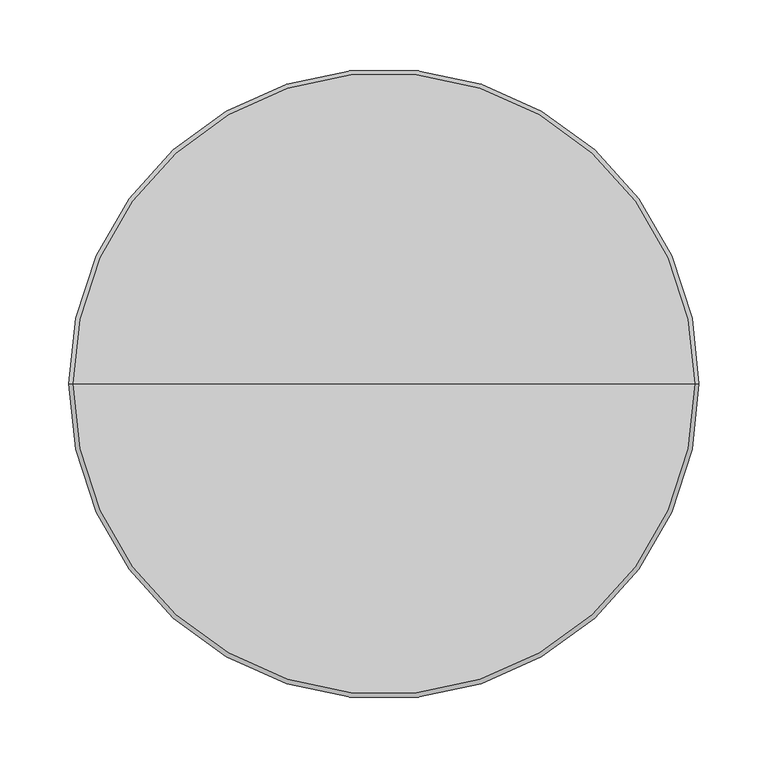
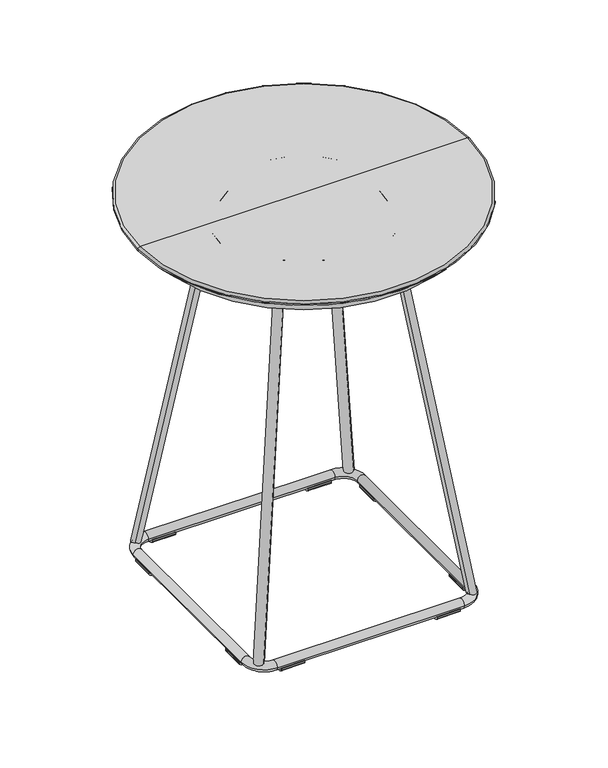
"""IFC4 building model written with IfcOpenShell, lengths in millimetres: furniture geometry, Stance_HC-Tully-Round_Table : TUTF18R22-T."""

from ifc_helpers import new_model, si_unit, point, frame, frame_2d, origin, place, context, project, spatial, polyline, circle_curve, ellipse_curve, trimmed, segment, composite_curve, outline, extrude, source, transform, mapped, element, save
from ifc_brep_helpers import plane_surface, cylinder_surface, revolved_surface, extruded_surface, advanced_brep


def furniture_25530727(model_context):
    return source(origin(), model_context, "Body", "SolidModel", [
        advanced_brep(
        [(-208.2100174, 0.0, 533.4), (208.2100174, 0.0, 533.4), (0.0, 0.0, 533.4), (-228.6, 0.0, 553.7899826), (228.6, 0.0, 553.7899826), (-228.6, 0.0, 555.625), (228.6, 0.0, 555.625), (0.0, 0.0, 558.8), (225.425, 0.0, 558.8), (-225.425, 0.0, 558.8)],
        [
            (0, 1, circle_curve(frame((0.0, 0.0, 533.4), z_axis=(0.0, 0.0, -1.0), x_axis=(1.0, 0.0, 0.0)), 208.2100174)),
            (1, 2),
            (2, 0),
            (1, 0, circle_curve(frame((0.0, 0.0, 533.4), z_axis=(0.0, 0.0, -1.0), x_axis=(1.0, 0.0, 0.0)), 208.2100174)),
            (3, 4, circle_curve(frame((0.0, 0.0, 553.7899826), z_axis=(0.0, 0.0, -1.0), x_axis=(1.0, 0.0, 0.0)), 228.6)),
            (4, 1),
            (0, 3),
            (4, 3, circle_curve(frame((0.0, 0.0, 553.7899826), z_axis=(0.0, 0.0, -1.0), x_axis=(1.0, 0.0, 0.0)), 228.6)),
            (5, 6, circle_curve(frame((0.0, 0.0, 555.625), z_axis=(0.0, 0.0, -1.0), x_axis=(1.0, 0.0, 0.0)), 228.6)),
            (6, 4),
            (3, 5),
            (6, 5, circle_curve(frame((0.0, 0.0, 555.625), z_axis=(0.0, 0.0, -1.0), x_axis=(1.0, 0.0, 0.0)), 228.6)),
            (7, 8),
            (8, 9, circle_curve(frame((0.0, 0.0, 558.8), z_axis=(0.0, 0.0, 1.0), x_axis=(1.0, 0.0, 0.0)), 225.425)),
            (9, 7),
            (9, 8, circle_curve(frame((0.0, 0.0, 558.8), z_axis=(0.0, 0.0, 1.0), x_axis=(1.0, 0.0, 0.0)), 225.425)),
            (8, 6, circle_curve(frame((225.425, 0.0, 555.625), z_axis=(0.0, 1.0, 0.0), x_axis=(1.0, 0.0, 0.0)), 3.175)),
            (5, 9, circle_curve(frame((-225.425, 0.0, 555.625), z_axis=(0.0, 1.0, 0.0), x_axis=(-1.0, 0.0, 0.0)), 3.175)),
        ],
        [
            plane_surface(frame((0.0, 0.0, 533.4), z_axis=(0.0, 0.0, -1.0), x_axis=(1.0, 0.0, 0.0))),
            revolved_surface(polyline([(208.2100174, 0.0, 533.4), (228.6, 0.0, 553.7899826)]), (0.0, 0.0, 613.381295), (0.0, 0.0, 1.0)),
            cylinder_surface(frame((0.0, 0.0, 613.381295), z_axis=(0.0, 0.0, 1.0), x_axis=(1.0, 0.0, 0.0)), 228.6),
            plane_surface(frame((0.0, 0.0, 558.8), z_axis=(0.0, 0.0, 1.0), x_axis=(1.0, 0.0, 0.0))),
            revolved_surface(trimmed(ellipse_curve(frame((225.425, 0.0, 555.625), z_axis=(0.0, -1.0, 0.0), x_axis=(1.0, 0.0, 0.0)), 3.175, 3.175), [point((228.6, 0.0, 555.625))], [point((225.425, 0.0, 558.8))], True, "CARTESIAN"), (0.0, 0.0, 613.381295), (0.0, 0.0, 1.0)),
        ],
        [
            (0, [[1, 2, 3]]),
            (0, [[4, -3, -2]]),
            (1, [[5, 6, -1, 7]]),
            (1, [[8, -7, -4, -6]]),
            (2, [[9, 10, -5, 11]]),
            (2, [[12, -11, -8, -10]]),
            (3, [[13, 14, 15]]),
            (3, [[-15, 16, -13]]),
            (4, [[-14, 17, -9, 18]]),
            (4, [[-16, -18, -12, -17]]),
        ],
    ),
        extrude(outline(composite_curve([segment(trimmed(circle_curve(frame_2d((-148.4350817, 5.3337234)), 0.3897203), [point((-148.7664819, 5.5387985))], [point((-148.0454207, 5.3269218))], False, "CARTESIAN"), True, "CONTINUOUS"), segment(polyline([(-148.0454207, 5.3269218), (-148.0841502, 3.1081125)]), True, "CONTINUOUS"), segment(trimmed(circle_curve(frame_2d((-149.6824444, 3.1360109)), 1.5985377), [point((-148.0841502, 3.1081125))], [point((-148.7010134, 1.8742201))], False, "CARTESIAN"), True, "CONTINUOUS"), segment(trimmed(circle_curve(frame_2d((-154.1650784, 8.8991729)), 8.8997735), [point((-148.7010134, 1.8742201))], [point((-159.6514035, 1.891591))], False, "CARTESIAN"), True, "CONTINUOUS"), segment(trimmed(circle_curve(frame_2d((-158.6952511, 3.1128668)), 1.5510454), [point((-159.6514035, 1.891591))], [point((-160.2460603, 3.0857973))], False, "CARTESIAN"), True, "CONTINUOUS"), segment(polyline([(-160.2460603, 3.0857973), (-160.2853602, 5.3372874)]), True, "CONTINUOUS"), segment(trimmed(circle_curve(frame_2d((-159.9029827, 5.3439618)), 0.3824358), [point((-160.2853602, 5.3372874))], [point((-159.5775522, 5.5448401))], False, "CARTESIAN"), True, "CONTINUOUS"), segment(trimmed(circle_curve(frame_2d((-154.1701501, 8.882664)), 6.3546098), [point((-159.5775522, 5.5448401))], [point((-148.7664819, 5.5387985))], True, "CARTESIAN"), True, "CONTINUOUS")], self_intersect=False)), frame((-123.2212496, 0.0, 0.0), z_axis=(1.0, 0.0, 0.0), x_axis=(0.0, 1.0, 0.0)), (0.0, 0.0, 1.0), 32.2202589),
        extrude(outline(composite_curve([segment(trimmed(circle_curve(frame_2d((-148.4350817, 5.3337234)), 0.3897203), [point((-148.7664819, 5.5387985))], [point((-148.0454207, 5.3269218))], False, "CARTESIAN"), True, "CONTINUOUS"), segment(polyline([(-148.0454207, 5.3269218), (-148.0841502, 3.1081125)]), True, "CONTINUOUS"), segment(trimmed(circle_curve(frame_2d((-149.6824444, 3.1360109)), 1.5985377), [point((-148.0841502, 3.1081125))], [point((-148.7010134, 1.8742201))], False, "CARTESIAN"), True, "CONTINUOUS"), segment(trimmed(circle_curve(frame_2d((-154.1650784, 8.8991729)), 8.8997735), [point((-148.7010134, 1.8742201))], [point((-159.6514035, 1.891591))], False, "CARTESIAN"), True, "CONTINUOUS"), segment(trimmed(circle_curve(frame_2d((-158.6952511, 3.1128668)), 1.5510454), [point((-159.6514035, 1.891591))], [point((-160.2460603, 3.0857973))], False, "CARTESIAN"), True, "CONTINUOUS"), segment(polyline([(-160.2460603, 3.0857973), (-160.2853602, 5.3372874)]), True, "CONTINUOUS"), segment(trimmed(circle_curve(frame_2d((-159.9029827, 5.3439618)), 0.3824358), [point((-160.2853602, 5.3372874))], [point((-159.5775522, 5.5448401))], False, "CARTESIAN"), True, "CONTINUOUS"), segment(trimmed(circle_curve(frame_2d((-154.1701501, 8.882664)), 6.3546098), [point((-159.5775522, 5.5448401))], [point((-148.7664819, 5.5387985))], True, "CARTESIAN"), True, "CONTINUOUS")], self_intersect=False)), frame((91.0531504, 0.0, 0.0), z_axis=(1.0, 0.0, 0.0), x_axis=(0.0, 1.0, 0.0)), (0.0, 0.0, 1.0), 32.2202589),
        extrude(outline(composite_curve([segment(trimmed(circle_curve(frame_2d((154.1701501, 8.882664)), 6.3546098), [point((148.7664819, 5.5387985))], [point((159.5775522, 5.5448401))], True, "CARTESIAN"), True, "CONTINUOUS"), segment(trimmed(circle_curve(frame_2d((159.9029827, 5.3439618)), 0.3824358), [point((159.5775522, 5.5448401))], [point((160.2853602, 5.3372874))], False, "CARTESIAN"), True, "CONTINUOUS"), segment(polyline([(160.2853602, 5.3372874), (160.2460603, 3.0857973)]), True, "CONTINUOUS"), segment(trimmed(circle_curve(frame_2d((158.6952511, 3.1128668)), 1.5510454), [point((160.2460603, 3.0857973))], [point((159.6514035, 1.891591))], False, "CARTESIAN"), True, "CONTINUOUS"), segment(trimmed(circle_curve(frame_2d((154.1650784, 8.8991729)), 8.8997735), [point((159.6514035, 1.891591))], [point((148.7010134, 1.8742201))], False, "CARTESIAN"), True, "CONTINUOUS"), segment(trimmed(circle_curve(frame_2d((149.6824444, 3.1360109)), 1.5985377), [point((148.7010134, 1.8742201))], [point((148.0841502, 3.1081125))], False, "CARTESIAN"), True, "CONTINUOUS"), segment(polyline([(148.0841502, 3.1081125), (148.0454207, 5.3269218)]), True, "CONTINUOUS"), segment(trimmed(circle_curve(frame_2d((148.4350817, 5.3337234)), 0.3897203), [point((148.0454207, 5.3269218))], [point((148.7664819, 5.5387985))], False, "CARTESIAN"), True, "CONTINUOUS")], self_intersect=False)), frame((-123.2212496, 0.0, 0.0), z_axis=(1.0, 0.0, 0.0), x_axis=(0.0, 1.0, 0.0)), (0.0, 0.0, 1.0), 32.2202589),
        extrude(outline(composite_curve([segment(trimmed(circle_curve(frame_2d((154.1701501, 8.882664)), 6.3546098), [point((148.7664819, 5.5387985))], [point((159.5775522, 5.5448401))], True, "CARTESIAN"), True, "CONTINUOUS"), segment(trimmed(circle_curve(frame_2d((159.9029827, 5.3439618)), 0.3824358), [point((159.5775522, 5.5448401))], [point((160.2853602, 5.3372874))], False, "CARTESIAN"), True, "CONTINUOUS"), segment(polyline([(160.2853602, 5.3372874), (160.2460603, 3.0857973)]), True, "CONTINUOUS"), segment(trimmed(circle_curve(frame_2d((158.6952511, 3.1128668)), 1.5510454), [point((160.2460603, 3.0857973))], [point((159.6514035, 1.891591))], False, "CARTESIAN"), True, "CONTINUOUS"), segment(trimmed(circle_curve(frame_2d((154.1650784, 8.8991729)), 8.8997735), [point((159.6514035, 1.891591))], [point((148.7010134, 1.8742201))], False, "CARTESIAN"), True, "CONTINUOUS"), segment(trimmed(circle_curve(frame_2d((149.6824444, 3.1360109)), 1.5985377), [point((148.7010134, 1.8742201))], [point((148.0841502, 3.1081125))], False, "CARTESIAN"), True, "CONTINUOUS"), segment(polyline([(148.0841502, 3.1081125), (148.0454207, 5.3269218)]), True, "CONTINUOUS"), segment(trimmed(circle_curve(frame_2d((148.4350817, 5.3337234)), 0.3897203), [point((148.0454207, 5.3269218))], [point((148.7664819, 5.5387985))], False, "CARTESIAN"), True, "CONTINUOUS")], self_intersect=False)), frame((91.0531504, 0.0, 0.0), z_axis=(1.0, 0.0, 0.0), x_axis=(0.0, 1.0, 0.0)), (0.0, 0.0, 1.0), 32.2202589),
        advanced_brep(
        [(81.5399756, 72.5694431, 523.8961578), (72.5597195, 81.5496992, 523.8961578), (151.0077383, 142.0372058, 13.6617424), (142.0274822, 151.0174619, 13.6617424)],
        [
            (0, 1, ellipse_curve(frame((77.0498475, 77.0595711, 523.8961578), z_axis=(0.0, 0.0, 1.0000000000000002), x_axis=(-0.7071067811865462, 0.7071067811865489, 0.0)), 6.35, 6.1981026)),
            (1, 0, ellipse_curve(frame((77.0498475, 77.0595711, 523.8961578), z_axis=(0.0, 0.0, 1.0000000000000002), x_axis=(-0.7071067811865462, 0.7071067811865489, 0.0)), 6.35, 6.1981026)),
            (2, 3, ellipse_curve(frame((146.5176102, 146.5273338, 13.6617424), z_axis=(0.0, 0.0, -1.0000000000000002), x_axis=(-0.7071067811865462, 0.7071067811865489, 0.0)), 6.35, 6.1981026)),
            (3, 2, ellipse_curve(frame((146.5176102, 146.5273338, 13.6617424), z_axis=(0.0, 0.0, -1.0000000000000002), x_axis=(-0.7071067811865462, 0.7071067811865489, 0.0)), 6.35, 6.1981026)),
            (3, 1),
            (0, 2),
        ],
        [
            plane_surface(frame((77.0498475, 77.0595711, 523.8961578), z_axis=(0.0, 0.0, 1.0), x_axis=(0.7071067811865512, 0.7071067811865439, 0.0))),
            plane_surface(frame((146.5176102, 146.5273338, 13.6617424), z_axis=(0.0, 0.0, -1.0), x_axis=(0.7071067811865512, 0.7071067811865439, 0.0))),
            extruded_surface(trimmed(ellipse_curve(frame((146.5176102, 146.5273338, 13.6617424), z_axis=(0.0, 0.0, 1.0000000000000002), x_axis=(-0.7071067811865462, 0.7071067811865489, 0.0)), 6.35, 6.1981026), [point((151.0077383, 142.0372058, 13.6617424))], [point((142.0274822, 151.0174619, 13.6617424))], True, "CARTESIAN"), (-69.46776270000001, -69.46776270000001, 510.2344154), 519.6062920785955),
            extruded_surface(trimmed(ellipse_curve(frame((146.5176102, 146.5273338, 13.6617424), z_axis=(0.0, 0.0, 1.0000000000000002), x_axis=(-0.7071067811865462, 0.7071067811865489, 0.0)), 6.35, 6.1981026), [point((142.0274822, 151.0174619, 13.6617424))], [point((151.0077383, 142.0372058, 13.6617424))], True, "CARTESIAN"), (-69.46776270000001, -69.46776270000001, 510.2344154), 519.6062920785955),
        ],
        [
            (0, [[1, 2]]),
            (1, [[3, 4]]),
            (2, [[-4, 5, -1, 6]]),
            (3, [[-3, -6, -2, -5]]),
        ],
    ),
        advanced_brep(
        [(-81.5399756, 72.5694431, 523.8961578), (-72.5597195, 81.5496992, 523.8961578), (-151.0077383, 142.0372058, 13.6617424), (-142.0274822, 151.0174619, 13.6617424)],
        [
            (0, 1, ellipse_curve(frame((-77.0498475, 77.0595711, 523.8961578), z_axis=(0.0, 0.0, 1.0000000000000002), x_axis=(0.7071067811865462, 0.7071067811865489, 0.0)), 6.35, 6.1981026)),
            (1, 0, ellipse_curve(frame((-77.0498475, 77.0595711, 523.8961578), z_axis=(0.0, 0.0, 1.0000000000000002), x_axis=(0.7071067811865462, 0.7071067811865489, 0.0)), 6.35, 6.1981026)),
            (2, 3, ellipse_curve(frame((-146.5176102, 146.5273338, 13.6617424), z_axis=(0.0, 0.0, -1.0000000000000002), x_axis=(0.7071067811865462, 0.7071067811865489, 0.0)), 6.35, 6.1981026)),
            (3, 2, ellipse_curve(frame((-146.5176102, 146.5273338, 13.6617424), z_axis=(0.0, 0.0, -1.0000000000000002), x_axis=(0.7071067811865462, 0.7071067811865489, 0.0)), 6.35, 6.1981026)),
            (2, 0),
            (1, 3),
        ],
        [
            plane_surface(frame((-77.0498475, 77.0595711, 523.8961578), z_axis=(0.0, 0.0, 1.0), x_axis=(0.7071067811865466, -0.7071067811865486, 0.0))),
            plane_surface(frame((-146.5176102, 146.5273338, 13.6617424), z_axis=(0.0, 0.0, -1.0), x_axis=(0.7071067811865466, -0.7071067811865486, 0.0))),
            extruded_surface(trimmed(ellipse_curve(frame((-146.5176102, 146.5273338, 13.6617424), z_axis=(0.0, 0.0, 1.0000000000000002), x_axis=(0.7071067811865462, 0.7071067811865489, 0.0)), 6.35, 6.1981026), [point((-142.0274822, 151.0174619, 13.6617424))], [point((-151.0077383, 142.0372058, 13.6617424))], True, "CARTESIAN"), (69.46776270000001, -69.46776270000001, 510.2344154), 519.6062920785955),
            extruded_surface(trimmed(ellipse_curve(frame((-146.5176102, 146.5273338, 13.6617424), z_axis=(0.0, 0.0, 1.0000000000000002), x_axis=(0.7071067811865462, 0.7071067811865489, 0.0)), 6.35, 6.1981026), [point((-151.0077383, 142.0372058, 13.6617424))], [point((-142.0274822, 151.0174619, 13.6617424))], True, "CARTESIAN"), (69.46776270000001, -69.46776270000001, 510.2344154), 519.6062920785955),
        ],
        [
            (0, [[1, 2]]),
            (1, [[3, 4]]),
            (2, [[-3, 5, -2, 6]]),
            (3, [[-4, -6, -1, -5]]),
        ],
    ),
        advanced_brep(
        [(81.5399756, -72.5694431, 523.8961578), (72.5597195, -81.5496992, 523.8961578), (151.0077383, -142.0372058, 13.6617424), (142.0274822, -151.0174619, 13.6617424)],
        [
            (0, 1, ellipse_curve(frame((77.0498475, -77.0595711, 523.8961578), z_axis=(0.0, 0.0, 1.0000000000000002), x_axis=(-0.7071067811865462, -0.7071067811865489, 0.0)), 6.35, 6.1981026)),
            (1, 0, ellipse_curve(frame((77.0498475, -77.0595711, 523.8961578), z_axis=(0.0, 0.0, 1.0000000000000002), x_axis=(-0.7071067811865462, -0.7071067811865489, 0.0)), 6.35, 6.1981026)),
            (2, 3, ellipse_curve(frame((146.5176102, -146.5273338, 13.6617424), z_axis=(0.0, 0.0, -1.0000000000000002), x_axis=(-0.7071067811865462, -0.7071067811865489, 0.0)), 6.35, 6.1981026)),
            (3, 2, ellipse_curve(frame((146.5176102, -146.5273338, 13.6617424), z_axis=(0.0, 0.0, -1.0000000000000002), x_axis=(-0.7071067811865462, -0.7071067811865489, 0.0)), 6.35, 6.1981026)),
            (2, 0),
            (1, 3),
        ],
        [
            plane_surface(frame((77.0498475, -77.0595711, 523.8961578), z_axis=(0.0, 0.0, 1.0), x_axis=(-0.7071067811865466, 0.7071067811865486, 0.0))),
            plane_surface(frame((146.5176102, -146.5273338, 13.6617424), z_axis=(0.0, 0.0, -1.0), x_axis=(-0.7071067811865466, 0.7071067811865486, 0.0))),
            extruded_surface(trimmed(ellipse_curve(frame((146.5176102, -146.5273338, 13.6617424), z_axis=(0.0, 0.0, 1.0000000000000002), x_axis=(-0.7071067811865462, -0.7071067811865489, 0.0)), 6.35, 6.1981026), [point((142.0274822, -151.0174619, 13.6617424))], [point((151.0077383, -142.0372058, 13.6617424))], True, "CARTESIAN"), (-69.46776270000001, 69.46776270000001, 510.2344154), 519.6062920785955),
            extruded_surface(trimmed(ellipse_curve(frame((146.5176102, -146.5273338, 13.6617424), z_axis=(0.0, 0.0, 1.0000000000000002), x_axis=(-0.7071067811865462, -0.7071067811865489, 0.0)), 6.35, 6.1981026), [point((151.0077383, -142.0372058, 13.6617424))], [point((142.0274822, -151.0174619, 13.6617424))], True, "CARTESIAN"), (-69.46776270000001, 69.46776270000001, 510.2344154), 519.6062920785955),
        ],
        [
            (0, [[1, 2]]),
            (1, [[3, 4]]),
            (2, [[-3, 5, -2, 6]]),
            (3, [[-4, -6, -1, -5]]),
        ],
    ),
        advanced_brep(
        [(-81.5399756, -72.5694431, 523.8961578), (-72.5597195, -81.5496992, 523.8961578), (-151.0077383, -142.0372058, 13.6617424), (-142.0274822, -151.0174619, 13.6617424)],
        [
            (0, 1, ellipse_curve(frame((-77.0498475, -77.0595711, 523.8961578), z_axis=(0.0, 0.0, 1.0000000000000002), x_axis=(0.7071067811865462, -0.7071067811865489, 0.0)), 6.35, 6.1981026)),
            (1, 0, ellipse_curve(frame((-77.0498475, -77.0595711, 523.8961578), z_axis=(0.0, 0.0, 1.0000000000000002), x_axis=(0.7071067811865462, -0.7071067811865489, 0.0)), 6.35, 6.1981026)),
            (2, 3, ellipse_curve(frame((-146.5176102, -146.5273338, 13.6617424), z_axis=(0.0, 0.0, -1.0000000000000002), x_axis=(0.7071067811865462, -0.7071067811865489, 0.0)), 6.35, 6.1981026)),
            (3, 2, ellipse_curve(frame((-146.5176102, -146.5273338, 13.6617424), z_axis=(0.0, 0.0, -1.0000000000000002), x_axis=(0.7071067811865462, -0.7071067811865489, 0.0)), 6.35, 6.1981026)),
            (3, 1),
            (0, 2),
        ],
        [
            plane_surface(frame((-77.0498475, -77.0595711, 523.8961578), z_axis=(0.0, 0.0, 1.0), x_axis=(-0.7071067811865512, -0.7071067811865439, 0.0))),
            plane_surface(frame((-146.5176102, -146.5273338, 13.6617424), z_axis=(0.0, 0.0, -1.0), x_axis=(-0.7071067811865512, -0.7071067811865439, 0.0))),
            extruded_surface(trimmed(ellipse_curve(frame((-146.5176102, -146.5273338, 13.6617424), z_axis=(0.0, 0.0, 1.0000000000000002), x_axis=(0.7071067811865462, -0.7071067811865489, 0.0)), 6.35, 6.1981026), [point((-151.0077383, -142.0372058, 13.6617424))], [point((-142.0274822, -151.0174619, 13.6617424))], True, "CARTESIAN"), (69.46776270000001, 69.46776270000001, 510.2344154), 519.6062920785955),
            extruded_surface(trimmed(ellipse_curve(frame((-146.5176102, -146.5273338, 13.6617424), z_axis=(0.0, 0.0, 1.0000000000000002), x_axis=(0.7071067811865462, -0.7071067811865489, 0.0)), 6.35, 6.1981026), [point((-142.0274822, -151.0174619, 13.6617424))], [point((-151.0077383, -142.0372058, 13.6617424))], True, "CARTESIAN"), (69.46776270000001, 69.46776270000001, 510.2344154), 519.6062920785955),
        ],
        [
            (0, [[1, 2]]),
            (1, [[3, 4]]),
            (2, [[-4, 5, -1, 6]]),
            (3, [[-3, -6, -2, -5]]),
        ],
    ),
        extrude(outline(composite_curve([segment(trimmed(circle_curve(frame_2d((-82.55, 0.0)), 9.525), [point((-82.55, 9.525))], [point((-82.55, -9.525))], False, "CARTESIAN"), True, "CONTINUOUS"), segment(polyline([(-82.55, -9.525), (-104.775, -9.525), (-104.775, 9.525), (-82.55, 9.525)]), True, "CONTINUOUS")], self_intersect=False)), frame((0.0, 0.0, 530.225), z_axis=(0.0, 0.0, 1.0), x_axis=(1.0, 0.0, 0.0)), (0.0, 0.0, 1.0), 3.175),
        extrude(outline(composite_curve([segment(polyline([(9.525, 104.775), (9.525, 82.55)]), True, "CONTINUOUS"), segment(trimmed(circle_curve(frame_2d((0.0, 82.55)), 9.525), [point((9.525, 82.55))], [point((-9.525, 82.55))], False, "CARTESIAN"), True, "CONTINUOUS"), segment(polyline([(-9.525, 82.55), (-9.525, 104.775), (9.525, 104.775)]), True, "CONTINUOUS")], self_intersect=False)), frame((0.0, 0.0, 530.225), z_axis=(0.0, 0.0, 1.0), x_axis=(1.0, 0.0, 0.0)), (0.0, 0.0, 1.0), 3.175),
        extrude(outline(composite_curve([segment(polyline([(104.775, 9.525), (104.775, -9.525), (82.55, -9.525)]), True, "CONTINUOUS"), segment(trimmed(circle_curve(frame_2d((82.55, 0.0)), 9.525), [point((82.55, -9.525))], [point((82.55, 9.525))], False, "CARTESIAN"), True, "CONTINUOUS"), segment(polyline([(82.55, 9.525), (104.775, 9.525)]), True, "CONTINUOUS")], self_intersect=False)), frame((0.0, 0.0, 530.225), z_axis=(0.0, 0.0, 1.0), x_axis=(1.0, 0.0, 0.0)), (0.0, 0.0, 1.0), 3.175),
        extrude(outline(composite_curve([segment(polyline([(9.525, -104.775), (-9.525, -104.775), (-9.525, -82.55)]), True, "CONTINUOUS"), segment(trimmed(circle_curve(frame_2d((0.0, -82.55)), 9.525), [point((-9.525, -82.55))], [point((9.525, -82.55))], False, "CARTESIAN"), True, "CONTINUOUS"), segment(polyline([(9.525, -82.55), (9.525, -104.775)]), True, "CONTINUOUS")], self_intersect=False)), frame((0.0, 0.0, 530.225), z_axis=(0.0, 0.0, 1.0), x_axis=(1.0, 0.0, 0.0)), (0.0, 0.0, 1.0), 3.175),
        advanced_brep(
        [(103.1973977, 0.0, 527.05), (-103.1973977, 0.0, 527.05), (-115.8973977, 0.0, 527.05), (115.8973977, 0.0, 527.05)],
        [
            (0, 1, circle_curve(frame((0.0, 0.0, 527.05), z_axis=(0.0, 0.0, -1.0), x_axis=(-1.0, 0.0, 0.0)), 103.1973977)),
            (1, 2, circle_curve(frame((-109.5473977, 0.0, 527.05), z_axis=(0.0, -1.0, 0.0), x_axis=(1.0, 0.0, 0.0)), 6.35)),
            (2, 3, circle_curve(frame((0.0, 0.0, 527.05), z_axis=(0.0, 0.0, 1.0), x_axis=(-1.0, 0.0, 0.0)), 115.8973977)),
            (3, 0, circle_curve(frame((109.5473977, 0.0, 527.05), z_axis=(0.0, -1.0, 0.0), x_axis=(-1.0, 0.0, 0.0)), 6.35)),
            (2, 1, circle_curve(frame((-109.5473977, 0.0, 527.05), z_axis=(0.0, -1.0, 0.0), x_axis=(1.0, 0.0, 0.0)), 6.35)),
            (0, 3, circle_curve(frame((109.5473977, 0.0, 527.05), z_axis=(0.0, -1.0, 0.0), x_axis=(-1.0, 0.0, 0.0)), 6.35)),
            (1, 0, circle_curve(frame((0.0, 0.0, 527.05), z_axis=(0.0, 0.0, -1.0), x_axis=(1.0, 0.0, 0.0)), 103.1973977)),
            (3, 2, circle_curve(frame((0.0, 0.0, 527.05), z_axis=(0.0, 0.0, 1.0), x_axis=(1.0, 0.0, 0.0)), 115.8973977)),
        ],
        [
            revolved_surface(trimmed(ellipse_curve(frame((-109.5473977, 0.0, 527.05), z_axis=(0.0, 1.0, 0.0), x_axis=(1.0, 0.0, 0.0)), 6.35, 6.35), [point((-115.8973977, 0.0, 527.05))], [point((-103.1973977, 0.0, 527.05))], True, "CARTESIAN"), (0.0, 0.0, 0.0), (0.0, 0.0, 1.0)),
            revolved_surface(trimmed(ellipse_curve(frame((-109.5473977, 0.0, 527.05), z_axis=(0.0, 1.0, 0.0), x_axis=(1.0, 0.0, 0.0)), 6.35, 6.35), [point((-103.1973977, 0.0, 527.05))], [point((-115.8973977, 0.0, 527.05))], True, "CARTESIAN"), (0.0, 0.0, 0.0), (0.0, 0.0, 1.0)),
            revolved_surface(trimmed(ellipse_curve(frame((109.5473977, 0.0, 527.05), z_axis=(0.0, -1.0, 0.0), x_axis=(-1.0, 0.0, 0.0)), 6.35, 6.35), [point((115.8973977, 0.0, 527.05))], [point((103.1973977, 0.0, 527.05))], True, "CARTESIAN"), (0.0, 0.0, 0.0), (0.0, 0.0, 1.0)),
            revolved_surface(trimmed(ellipse_curve(frame((109.5473977, 0.0, 527.05), z_axis=(0.0, -1.0, 0.0), x_axis=(-1.0, 0.0, 0.0)), 6.35, 6.35), [point((103.1973977, 0.0, 527.05))], [point((115.8973977, 0.0, 527.05))], True, "CARTESIAN"), (0.0, 0.0, 0.0), (0.0, 0.0, 1.0)),
        ],
        [
            (0, [[1, 2, 3, 4]]),
            (1, [[-3, 5, -1, 6]]),
            (2, [[7, -4, 8, -2]]),
            (3, [[-8, -6, -7, -5]]),
        ],
    ),
        extrude(outline(composite_curve([segment(trimmed(circle_curve(frame_2d((5.3337234, 148.4350817)), 0.3897203), [point((5.5387985, 148.7664819))], [point((5.3269218, 148.0454207))], False, "CARTESIAN"), True, "CONTINUOUS"), segment(polyline([(5.3269218, 148.0454207), (3.1081125, 148.0841502)]), True, "CONTINUOUS"), segment(trimmed(circle_curve(frame_2d((3.1360109, 149.6824444)), 1.5985377), [point((3.1081125, 148.0841502))], [point((1.8742201, 148.7010134))], False, "CARTESIAN"), True, "CONTINUOUS"), segment(trimmed(circle_curve(frame_2d((8.8991729, 154.1650784)), 8.8997735), [point((1.8742201, 148.7010134))], [point((1.891591, 159.6514035))], False, "CARTESIAN"), True, "CONTINUOUS"), segment(trimmed(circle_curve(frame_2d((3.1128668, 158.6952511)), 1.5510454), [point((1.891591, 159.6514035))], [point((3.0857973, 160.2460603))], False, "CARTESIAN"), True, "CONTINUOUS"), segment(polyline([(3.0857973, 160.2460603), (5.3372874, 160.2853602)]), True, "CONTINUOUS"), segment(trimmed(circle_curve(frame_2d((5.3439618, 159.9029827)), 0.3824358), [point((5.3372874, 160.2853602))], [point((5.5448401, 159.5775522))], False, "CARTESIAN"), True, "CONTINUOUS"), segment(trimmed(circle_curve(frame_2d((8.882664, 154.1701501)), 6.3546098), [point((5.5448401, 159.5775522))], [point((5.5387985, 148.7664819))], True, "CARTESIAN"), True, "CONTINUOUS")], self_intersect=False)), frame((0.0, -123.2212496, 0.0), z_axis=(0.0, 1.0, 0.0), x_axis=(0.0, 0.0, 1.0)), (0.0, 0.0, 1.0), 32.2202589),
        extrude(outline(composite_curve([segment(trimmed(circle_curve(frame_2d((5.3337234, 148.4350817)), 0.3897203), [point((5.5387985, 148.7664819))], [point((5.3269218, 148.0454207))], False, "CARTESIAN"), True, "CONTINUOUS"), segment(polyline([(5.3269218, 148.0454207), (3.1081125, 148.0841502)]), True, "CONTINUOUS"), segment(trimmed(circle_curve(frame_2d((3.1360109, 149.6824444)), 1.5985377), [point((3.1081125, 148.0841502))], [point((1.8742201, 148.7010134))], False, "CARTESIAN"), True, "CONTINUOUS"), segment(trimmed(circle_curve(frame_2d((8.8991729, 154.1650784)), 8.8997735), [point((1.8742201, 148.7010134))], [point((1.891591, 159.6514035))], False, "CARTESIAN"), True, "CONTINUOUS"), segment(trimmed(circle_curve(frame_2d((3.1128668, 158.6952511)), 1.5510454), [point((1.891591, 159.6514035))], [point((3.0857973, 160.2460603))], False, "CARTESIAN"), True, "CONTINUOUS"), segment(polyline([(3.0857973, 160.2460603), (5.3372874, 160.2853602)]), True, "CONTINUOUS"), segment(trimmed(circle_curve(frame_2d((5.3439618, 159.9029827)), 0.3824358), [point((5.3372874, 160.2853602))], [point((5.5448401, 159.5775522))], False, "CARTESIAN"), True, "CONTINUOUS"), segment(trimmed(circle_curve(frame_2d((8.882664, 154.1701501)), 6.3546098), [point((5.5448401, 159.5775522))], [point((5.5387985, 148.7664819))], True, "CARTESIAN"), True, "CONTINUOUS")], self_intersect=False)), frame((0.0, 91.0531504, 0.0), z_axis=(0.0, 1.0, 0.0), x_axis=(0.0, 0.0, 1.0)), (0.0, 0.0, 1.0), 32.2202589),
        extrude(outline(composite_curve([segment(trimmed(circle_curve(frame_2d((8.882664, -154.1701501)), 6.3546098), [point((5.5387985, -148.7664819))], [point((5.5448401, -159.5775522))], True, "CARTESIAN"), True, "CONTINUOUS"), segment(trimmed(circle_curve(frame_2d((5.3439618, -159.9029827)), 0.3824358), [point((5.5448401, -159.5775522))], [point((5.3372874, -160.2853602))], False, "CARTESIAN"), True, "CONTINUOUS"), segment(polyline([(5.3372874, -160.2853602), (3.0857973, -160.2460603)]), True, "CONTINUOUS"), segment(trimmed(circle_curve(frame_2d((3.1128668, -158.6952511)), 1.5510454), [point((3.0857973, -160.2460603))], [point((1.891591, -159.6514035))], False, "CARTESIAN"), True, "CONTINUOUS"), segment(trimmed(circle_curve(frame_2d((8.8991729, -154.1650784)), 8.8997735), [point((1.891591, -159.6514035))], [point((1.8742201, -148.7010134))], False, "CARTESIAN"), True, "CONTINUOUS"), segment(trimmed(circle_curve(frame_2d((3.1360109, -149.6824444)), 1.5985377), [point((1.8742201, -148.7010134))], [point((3.1081125, -148.0841502))], False, "CARTESIAN"), True, "CONTINUOUS"), segment(polyline([(3.1081125, -148.0841502), (5.3269218, -148.0454207)]), True, "CONTINUOUS"), segment(trimmed(circle_curve(frame_2d((5.3337234, -148.4350817)), 0.3897203), [point((5.3269218, -148.0454207))], [point((5.5387985, -148.7664819))], False, "CARTESIAN"), True, "CONTINUOUS")], self_intersect=False)), frame((0.0, -123.2212496, 0.0), z_axis=(0.0, 1.0, 0.0), x_axis=(0.0, 0.0, 1.0)), (0.0, 0.0, 1.0), 32.2202589),
        extrude(outline(composite_curve([segment(trimmed(circle_curve(frame_2d((8.882664, -154.1701501)), 6.3546098), [point((5.5387985, -148.7664819))], [point((5.5448401, -159.5775522))], True, "CARTESIAN"), True, "CONTINUOUS"), segment(trimmed(circle_curve(frame_2d((5.3439618, -159.9029827)), 0.3824358), [point((5.5448401, -159.5775522))], [point((5.3372874, -160.2853602))], False, "CARTESIAN"), True, "CONTINUOUS"), segment(polyline([(5.3372874, -160.2853602), (3.0857973, -160.2460603)]), True, "CONTINUOUS"), segment(trimmed(circle_curve(frame_2d((3.1128668, -158.6952511)), 1.5510454), [point((3.0857973, -160.2460603))], [point((1.891591, -159.6514035))], False, "CARTESIAN"), True, "CONTINUOUS"), segment(trimmed(circle_curve(frame_2d((8.8991729, -154.1650784)), 8.8997735), [point((1.891591, -159.6514035))], [point((1.8742201, -148.7010134))], False, "CARTESIAN"), True, "CONTINUOUS"), segment(trimmed(circle_curve(frame_2d((3.1360109, -149.6824444)), 1.5985377), [point((1.8742201, -148.7010134))], [point((3.1081125, -148.0841502))], False, "CARTESIAN"), True, "CONTINUOUS"), segment(polyline([(3.1081125, -148.0841502), (5.3269218, -148.0454207)]), True, "CONTINUOUS"), segment(trimmed(circle_curve(frame_2d((5.3337234, -148.4350817)), 0.3897203), [point((5.3269218, -148.0454207))], [point((5.5387985, -148.7664819))], False, "CARTESIAN"), True, "CONTINUOUS")], self_intersect=False)), frame((0.0, 91.0531504, 0.0), z_axis=(0.0, 1.0, 0.0), x_axis=(0.0, 0.0, 1.0)), (0.0, 0.0, 1.0), 32.2202589),
        advanced_brep(
        [(160.51531, 128.7802999, 8.8793349), (128.76531, 160.5302999, 8.8793349), (128.76531, 147.8302999, 8.8793349), (147.81531, 128.7802999, 8.8793349), (147.81531, -128.7652923, 8.8793349), (160.51531, -128.7652923, 8.8793349), (128.76531, -160.5152923, 8.8793349), (128.76531, -147.8152923, 8.8793349), (-128.7438636, -147.8152923, 8.8793349), (-128.7438636, -160.5152923, 8.8793349), (-160.4938636, -128.7652923, 8.8793349), (-147.7938636, -128.7652923, 8.8793349), (-147.7938636, 128.7802999, 8.8793349), (-160.4938636, 128.7802999, 8.8793349), (-128.7438636, 160.5302999, 8.8793349), (-128.7438636, 147.8302999, 8.8793349)],
        [
            (0, 1, circle_curve(frame((128.76531, 128.7802999, 8.8793349), z_axis=(0.0, 0.0, 1.0), x_axis=(0.0, 1.0, 0.0)), 31.75)),
            (1, 2, circle_curve(frame((128.76531, 154.1802999, 8.8793349), z_axis=(1.0, 0.0, 0.0), x_axis=(0.0, 1.0, 0.0)), 6.35)),
            (2, 3, circle_curve(frame((128.76531, 128.7802999, 8.8793349), z_axis=(0.0, 0.0, -1.0), x_axis=(0.0, 1.0, 0.0)), 19.05)),
            (3, 0, circle_curve(frame((154.16531, 128.7802999, 8.8793349), z_axis=(0.0, 1.0, 0.0), x_axis=(1.0, 0.0, 0.0)), 6.35)),
            (2, 1, circle_curve(frame((128.76531, 154.1802999, 8.8793349), z_axis=(1.0, 0.0, 0.0), x_axis=(0.0, 1.0, 0.0)), 6.35)),
            (0, 3, circle_curve(frame((154.16531, 128.7802999, 8.8793349), z_axis=(0.0, 1.0, 0.0), x_axis=(1.0, 0.0, 0.0)), 6.35)),
            (3, 4),
            (4, 5, circle_curve(frame((154.16531, -128.7652923, 8.8793349), z_axis=(0.0, 1.0, 0.0), x_axis=(1.0, 0.0, 0.0)), 6.35)),
            (5, 0),
            (5, 4, circle_curve(frame((154.16531, -128.7652923, 8.8793349), z_axis=(0.0, 1.0, 0.0), x_axis=(1.0, 0.0, 0.0)), 6.35)),
            (6, 5, circle_curve(frame((128.76531, -128.7652923, 8.8793349), z_axis=(0.0, 0.0, 1.0), x_axis=(1.0, 0.0, 0.0)), 31.75)),
            (4, 7, circle_curve(frame((128.76531, -128.7652923, 8.8793349), z_axis=(0.0, 0.0, -1.0), x_axis=(1.0, 0.0, 0.0)), 19.05)),
            (7, 6, circle_curve(frame((128.76531, -154.1652923, 8.8793349), z_axis=(1.0, 0.0, 0.0), x_axis=(0.0, -1.0, 0.0)), 6.35)),
            (6, 7, circle_curve(frame((128.76531, -154.1652923, 8.8793349), z_axis=(1.0, 0.0, 0.0), x_axis=(0.0, -1.0, 0.0)), 6.35)),
            (7, 8),
            (8, 9, circle_curve(frame((-128.7438636, -154.1652923, 8.8793349), z_axis=(1.0, 0.0, 0.0), x_axis=(0.0, -1.0, 0.0)), 6.35)),
            (9, 6),
            (9, 8, circle_curve(frame((-128.7438636, -154.1652923, 8.8793349), z_axis=(1.0, 0.0, 0.0), x_axis=(0.0, -1.0, 0.0)), 6.35)),
            (10, 9, circle_curve(frame((-128.7438636, -128.7652923, 8.8793349), z_axis=(0.0, 0.0, 1.0), x_axis=(0.0, -1.0, 0.0)), 31.75)),
            (8, 11, circle_curve(frame((-128.7438636, -128.7652923, 8.8793349), z_axis=(0.0, 0.0, -1.0), x_axis=(0.0, -1.0, 0.0)), 19.05)),
            (11, 10, circle_curve(frame((-154.1438636, -128.7652923, 8.8793349), z_axis=(0.0, -1.0, 0.0), x_axis=(-1.0, 0.0, 0.0)), 6.35)),
            (10, 11, circle_curve(frame((-154.1438636, -128.7652923, 8.8793349), z_axis=(0.0, -1.0, 0.0), x_axis=(-1.0, 0.0, 0.0)), 6.35)),
            (11, 12),
            (12, 13, circle_curve(frame((-154.1438636, 128.7802999, 8.8793349), z_axis=(0.0, -1.0, 0.0), x_axis=(-1.0, 0.0, 0.0)), 6.35)),
            (13, 10),
            (13, 12, circle_curve(frame((-154.1438636, 128.7802999, 8.8793349), z_axis=(0.0, -1.0, 0.0), x_axis=(-1.0, 0.0, 0.0)), 6.35)),
            (14, 13, circle_curve(frame((-128.7438636, 128.7802999, 8.8793349), z_axis=(0.0, 0.0, 1.0), x_axis=(-1.0, 0.0, 0.0)), 31.75)),
            (12, 15, circle_curve(frame((-128.7438636, 128.7802999, 8.8793349), z_axis=(0.0, 0.0, -1.0), x_axis=(-1.0, 0.0, 0.0)), 19.05)),
            (15, 14, circle_curve(frame((-128.7438636, 154.1802999, 8.8793349), z_axis=(-1.0, 0.0, 0.0), x_axis=(0.0, 1.0, 0.0)), 6.35)),
            (14, 15, circle_curve(frame((-128.7438636, 154.1802999, 8.8793349), z_axis=(-1.0, 0.0, 0.0), x_axis=(0.0, 1.0, 0.0)), 6.35)),
            (15, 2),
            (1, 14),
        ],
        [
            revolved_surface(trimmed(ellipse_curve(frame((128.76531, 154.1802999, 8.8793349), z_axis=(-1.0, 0.0, 0.0), x_axis=(0.0, 1.0, 0.0)), 6.35, 6.35), [point((128.76531, 147.8302999, 8.8793349))], [point((128.76531, 160.5302999, 8.8793349))], True, "CARTESIAN"), (128.76531, 128.7802999, 0.0), (0.0, 0.0, -1.0)),
            revolved_surface(trimmed(ellipse_curve(frame((128.76531, 154.1802999, 8.8793349), z_axis=(-1.0, 0.0, 0.0), x_axis=(0.0, 1.0, 0.0)), 6.35, 6.35), [point((128.76531, 160.5302999, 8.8793349))], [point((128.76531, 147.8302999, 8.8793349))], True, "CARTESIAN"), (128.76531, 128.7802999, 0.0), (0.0, 0.0, -1.0)),
            cylinder_surface(frame((154.16531, 128.7802999, 8.8793349), z_axis=(0.0, 1.0, 0.0), x_axis=(1.0, 0.0, 0.0)), 6.35),
            revolved_surface(trimmed(ellipse_curve(frame((154.16531, -128.7652923, 8.8793349), z_axis=(0.0, 1.0, 0.0), x_axis=(1.0, 0.0, 0.0)), 6.35, 6.35), [point((147.81531, -128.7652923, 8.8793349))], [point((160.51531, -128.7652923, 8.8793349))], True, "CARTESIAN"), (128.76531, -128.7652923, 0.0), (0.0, 0.0, -1.0)),
            revolved_surface(trimmed(ellipse_curve(frame((154.16531, -128.7652923, 8.8793349), z_axis=(0.0, 1.0, 0.0), x_axis=(1.0, 0.0, 0.0)), 6.35, 6.35), [point((160.51531, -128.7652923, 8.8793349))], [point((147.81531, -128.7652923, 8.8793349))], True, "CARTESIAN"), (128.76531, -128.7652923, 0.0), (0.0, 0.0, -1.0)),
            cylinder_surface(frame((128.76531, -154.1652923, 8.8793349), z_axis=(1.0, 0.0, 0.0), x_axis=(0.0, -1.0, 0.0)), 6.35),
            revolved_surface(trimmed(ellipse_curve(frame((-128.7438636, -154.1652923, 8.8793349), z_axis=(1.0, 0.0, 0.0), x_axis=(0.0, -1.0, 0.0)), 6.35, 6.35), [point((-128.7438636, -147.8152923, 8.8793349))], [point((-128.7438636, -160.5152923, 8.8793349))], True, "CARTESIAN"), (-128.7438636, -128.7652923, 0.0), (0.0, 0.0, -1.0)),
            revolved_surface(trimmed(ellipse_curve(frame((-128.7438636, -154.1652923, 8.8793349), z_axis=(1.0, 0.0, 0.0), x_axis=(0.0, -1.0, 0.0)), 6.35, 6.35), [point((-128.7438636, -160.5152923, 8.8793349))], [point((-128.7438636, -147.8152923, 8.8793349))], True, "CARTESIAN"), (-128.7438636, -128.7652923, 0.0), (0.0, 0.0, -1.0)),
            cylinder_surface(frame((-154.1438636, -128.7652923, 8.8793349), z_axis=(0.0, -1.0, 0.0), x_axis=(-1.0, 0.0, 0.0)), 6.35),
            revolved_surface(trimmed(ellipse_curve(frame((-154.1438636, 128.7802999, 8.8793349), z_axis=(0.0, -1.0, 0.0), x_axis=(-1.0, 0.0, 0.0)), 6.35, 6.35), [point((-147.7938636, 128.7802999, 8.8793349))], [point((-160.4938636, 128.7802999, 8.8793349))], True, "CARTESIAN"), (-128.7438636, 128.7802999, 0.0), (0.0, 0.0, -1.0)),
            revolved_surface(trimmed(ellipse_curve(frame((-154.1438636, 128.7802999, 8.8793349), z_axis=(0.0, -1.0, 0.0), x_axis=(-1.0, 0.0, 0.0)), 6.35, 6.35), [point((-160.4938636, 128.7802999, 8.8793349))], [point((-147.7938636, 128.7802999, 8.8793349))], True, "CARTESIAN"), (-128.7438636, 128.7802999, 0.0), (0.0, 0.0, -1.0)),
            cylinder_surface(frame((-128.7438636, 154.1802999, 8.8793349), z_axis=(-1.0, 0.0, 0.0), x_axis=(0.0, 1.0, 0.0)), 6.35),
        ],
        [
            (0, [[1, 2, 3, 4]]),
            (1, [[-3, 5, -1, 6]]),
            (2, [[-4, 7, 8, 9]]),
            (2, [[-6, -9, 10, -7]]),
            (3, [[11, -8, 12, 13]]),
            (4, [[-12, -10, -11, 14]]),
            (5, [[-13, 15, 16, 17]]),
            (5, [[-14, -17, 18, -15]]),
            (6, [[19, -16, 20, 21]]),
            (7, [[-20, -18, -19, 22]]),
            (8, [[-21, 23, 24, 25]]),
            (8, [[-22, -25, 26, -23]]),
            (9, [[27, -24, 28, 29]]),
            (10, [[-28, -26, -27, 30]]),
            (11, [[-29, 31, -2, 32]]),
            (11, [[-30, -32, -5, -31]]),
        ],
    ),
    ])


if __name__ == "__main__":
    model = new_model("IFC4")
    model_context = context("Model", 3, world=origin())
    ifc_project = project(units=[si_unit("LENGTHUNIT", "METRE", prefix="MILLI")], contexts=[model_context])
    site = spatial("IfcSite", under=ifc_project)
    building = spatial("IfcBuilding", under=site)
    placement = place(None, origin())
    furniture_shape = furniture_25530727(model_context)
    element("IfcFurniture", 1, ObjectType="Stance_HC-Tully-Round_Table : TUTF18R22-T", at=placement, inside=building, context=model_context, shape_type="MappedRepresentation", body=[
        mapped(furniture_shape, transform((0.0, 0.0, 0.0), x_axis=(1.0, 0.0, 0.0), y_axis=(0.0, 1.0, 0.0), z_axis=(0.0, 0.0, 1.0))),
    ])
    save(model, "model.ifc")
